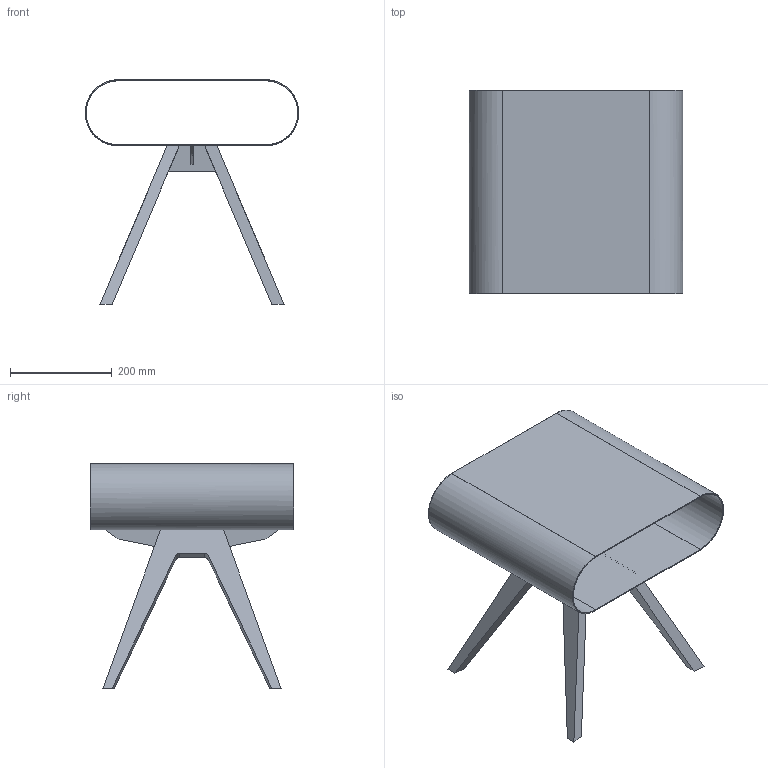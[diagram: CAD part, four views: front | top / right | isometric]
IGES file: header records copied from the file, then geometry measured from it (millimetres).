
Start section: Comment
Global section: file name: LO-12.igs; native system:  By UGS Corp.; preprocessor: XPlus GENERIC/IGES 3.0; author: Author; organization: Title; date: 20151120.140201; units: inch
Bounding box: 419.9 x 400 x 441.17 mm (x, y, z)
Surface area: 999360.1 mm2 (no closed solid volume)
Topology: 0 solids, 0 shells, 49 faces, 252 edges, 252 vertices
Faces by surface type: bspline 49
